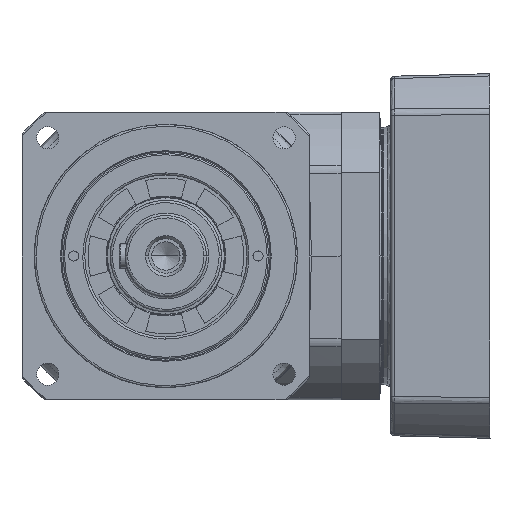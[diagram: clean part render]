
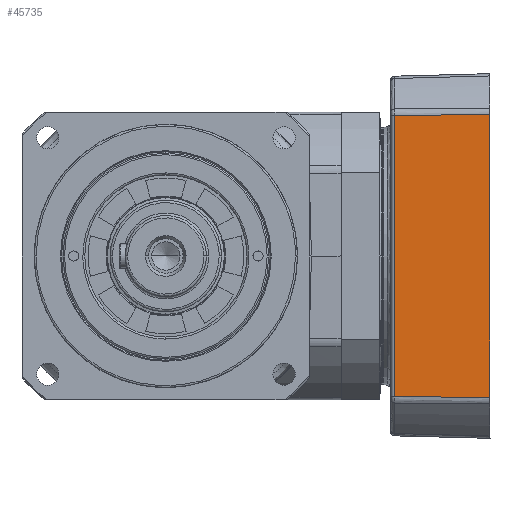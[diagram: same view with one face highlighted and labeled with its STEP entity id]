
A CAD part, left-side view. The second image highlights one B-rep face of the part: STEP entity #45735.
In plain terms, the highlighted planar face has unit normal (-1, 0.026, 0).
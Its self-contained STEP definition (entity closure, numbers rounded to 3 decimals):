
#3572 = B_SPLINE_CURVE_WITH_KNOTS ( 'NONE', 3,
 ( #111902, #69848, #119423, #100382 ),
 .UNSPECIFIED., .F., .F.,
 ( 4, 4 ),
 ( 0., 1. ),
 .UNSPECIFIED. ) ;
#5353 = CARTESIAN_POINT ( 'NONE',  ( 116.728, -142.282, 232. ) ) ;
#6877 = ORIENTED_EDGE ( 'NONE', *, *, #10604, .T. ) ;
#8101 = LINE ( 'NONE', #48839, #72410 ) ;
#10604 = EDGE_CURVE ( 'NONE', #116350, #100771, #121347, .T. ) ;
#17804 = B_SPLINE_CURVE_WITH_KNOTS ( 'NONE', 3,
 ( #113975, #111955, #132284, #62422 ),
 .UNSPECIFIED., .F., .F.,
 ( 4, 4 ),
 ( 0., 1. ),
 .UNSPECIFIED. ) ;
#19225 = EDGE_CURVE ( 'NONE', #100771, #119748, #3572, .T. ) ;
#19241 = EDGE_CURVE ( 'NONE', #85004, #129039, #8101, .T. ) ;
#24381 = VERTEX_POINT ( 'NONE', #35536 ) ;
#24633 = CARTESIAN_POINT ( 'NONE',  ( 116.73, -142.231, 108.5 ) ) ;
#25027 = LINE ( 'NONE', #5353, #132060 ) ;
#30484 = CARTESIAN_POINT ( 'NONE',  ( 116.728, -142.282, 232. ) ) ;
#33502 = CARTESIAN_POINT ( 'NONE',  ( 116.73, -142.13, 108.5 ) ) ;
#33712 = ORIENTED_EDGE ( 'NONE', *, *, #19241, .T. ) ;
#34150 = CARTESIAN_POINT ( 'NONE',  ( 116.731, -142.198, 115.833 ) ) ;
#34177 = CARTESIAN_POINT ( 'NONE',  ( 116.728, -142.282, 108.5 ) ) ;
#35536 = CARTESIAN_POINT ( 'NONE',  ( 116.728, -142.282, 211.822 ) ) ;
#35696 = FACE_OUTER_BOUND ( 'NONE', #37913, .T. ) ;
#36792 = CARTESIAN_POINT ( 'NONE',  ( 117.961, -95.229, 72.621 ) ) ;
#37913 = EDGE_LOOP ( 'NONE', ( #70238, #33712, #119820, #100226, #111805, #6877, #41145, #110579 ) ) ;
#41145 = ORIENTED_EDGE ( 'NONE', *, *, #19225, .T. ) ;
#45735 = ADVANCED_FACE ( 'NONE', ( #35696 ), #48540, .T. ) ;
#48540 = PLANE ( 'NONE',  #122816 ) ;
#48839 = CARTESIAN_POINT ( 'NONE',  ( 117.961, -95.229, 142. ) ) ;
#53126 = B_SPLINE_CURVE_WITH_KNOTS ( 'NONE', 3,
 ( #126690, #128019, #117190, #55458 ),
 .UNSPECIFIED., .F., .F.,
 ( 4, 4 ),
 ( 0., 1. ),
 .UNSPECIFIED. ) ;
#53677 = VERTEX_POINT ( 'NONE', #112212 ) ;
#55458 = CARTESIAN_POINT ( 'NONE',  ( 117.961, -95.229, 211.379 ) ) ;
#58346 = DIRECTION ( 'NONE',  ( 0., 0., -1. ) ) ;
#58577 = CARTESIAN_POINT ( 'NONE',  ( 117.961, -95.229, 211.379 ) ) ;
#62422 = CARTESIAN_POINT ( 'NONE',  ( 117.961, -95.229, 72.621 ) ) ;
#63022 = VECTOR ( 'NONE', #93536, 1000. ) ;
#63337 = CARTESIAN_POINT ( 'NONE',  ( 116.729, -142.231, 119.5 ) ) ;
#64372 = CARTESIAN_POINT ( 'NONE',  ( 116.73, -142.13, 108.5 ) ) ;
#69848 = CARTESIAN_POINT ( 'NONE',  ( 116.729, -142.248, 119.5 ) ) ;
#70238 = ORIENTED_EDGE ( 'NONE', *, *, #80175, .T. ) ;
#72410 = VECTOR ( 'NONE', #58346, 1000. ) ;
#79702 = CARTESIAN_POINT ( 'NONE',  ( 116.728, -142.282, 72.178 ) ) ;
#80175 = EDGE_CURVE ( 'NONE', #24381, #85004, #53126, .T. ) ;
#85004 = VERTEX_POINT ( 'NONE', #58577 ) ;
#85664 = CARTESIAN_POINT ( 'NONE',  ( 116.73, -142.13, 108.5 ) ) ;
#87873 = DIRECTION ( 'NONE',  ( 0., 0., 1. ) ) ;
#89878 = DIRECTION ( 'NONE',  ( -1., 0.026, 0. ) ) ;
#93536 = DIRECTION ( 'NONE',  ( 0., 0., -1. ) ) ;
#94757 = B_SPLINE_CURVE_WITH_KNOTS ( 'NONE', 3,
 ( #34177, #24633, #116251, #33502 ),
 .UNSPECIFIED., .F., .F.,
 ( 4, 4 ),
 ( 0., 1. ),
 .UNSPECIFIED. ) ;
#95744 = EDGE_CURVE ( 'NONE', #120173, #116350, #94757, .T. ) ;
#100226 = ORIENTED_EDGE ( 'NONE', *, *, #119067, .F. ) ;
#100382 = CARTESIAN_POINT ( 'NONE',  ( 116.728, -142.282, 119.5 ) ) ;
#100771 = VERTEX_POINT ( 'NONE', #133824 ) ;
#101219 = EDGE_CURVE ( 'NONE', #53677, #129039, #17804, .T. ) ;
#110579 = ORIENTED_EDGE ( 'NONE', *, *, #121922, .F. ) ;
#111745 = CARTESIAN_POINT ( 'NONE',  ( 116.728, -142.282, 119.5 ) ) ;
#111805 = ORIENTED_EDGE ( 'NONE', *, *, #95744, .T. ) ;
#111902 = CARTESIAN_POINT ( 'NONE',  ( 116.729, -142.231, 119.5 ) ) ;
#111955 = CARTESIAN_POINT ( 'NONE',  ( 117.139, -126.592, 72.326 ) ) ;
#112212 = CARTESIAN_POINT ( 'NONE',  ( 116.728, -142.282, 72.178 ) ) ;
#113247 = LINE ( 'NONE', #30484, #63022 ) ;
#113975 = CARTESIAN_POINT ( 'NONE',  ( 116.728, -142.282, 72.178 ) ) ;
#116251 = CARTESIAN_POINT ( 'NONE',  ( 116.731, -142.181, 108.5 ) ) ;
#116350 = VERTEX_POINT ( 'NONE', #64372 ) ;
#117190 = CARTESIAN_POINT ( 'NONE',  ( 117.55, -110.914, 211.527 ) ) ;
#119067 = EDGE_CURVE ( 'NONE', #120173, #53677, #113247, .T. ) ;
#119104 = CARTESIAN_POINT ( 'NONE',  ( 116.728, -142.282, 108.5 ) ) ;
#119423 = CARTESIAN_POINT ( 'NONE',  ( 116.729, -142.265, 119.5 ) ) ;
#119748 = VERTEX_POINT ( 'NONE', #111745 ) ;
#119820 = ORIENTED_EDGE ( 'NONE', *, *, #101219, .F. ) ;
#120173 = VERTEX_POINT ( 'NONE', #119104 ) ;
#121347 = B_SPLINE_CURVE_WITH_KNOTS ( 'NONE', 3,
 ( #85664, #127054, #34150, #63337 ),
 .UNSPECIFIED., .F., .F.,
 ( 4, 4 ),
 ( 0., 1. ),
 .UNSPECIFIED. ) ;
#121922 = EDGE_CURVE ( 'NONE', #24381, #119748, #25027, .T. ) ;
#122816 = AXIS2_PLACEMENT_3D ( 'NONE', #79702, #89878, #87873 ) ;
#126690 = CARTESIAN_POINT ( 'NONE',  ( 116.728, -142.282, 211.822 ) ) ;
#127054 = CARTESIAN_POINT ( 'NONE',  ( 116.731, -142.164, 112.167 ) ) ;
#128019 = CARTESIAN_POINT ( 'NONE',  ( 117.139, -126.598, 211.674 ) ) ;
#128801 = DIRECTION ( 'NONE',  ( 0., 0., -1. ) ) ;
#129039 = VERTEX_POINT ( 'NONE', #36792 ) ;
#132060 = VECTOR ( 'NONE', #128801, 1000. ) ;
#132284 = CARTESIAN_POINT ( 'NONE',  ( 117.55, -110.908, 72.473 ) ) ;
#133824 = CARTESIAN_POINT ( 'NONE',  ( 116.729, -142.231, 119.5 ) ) ;
